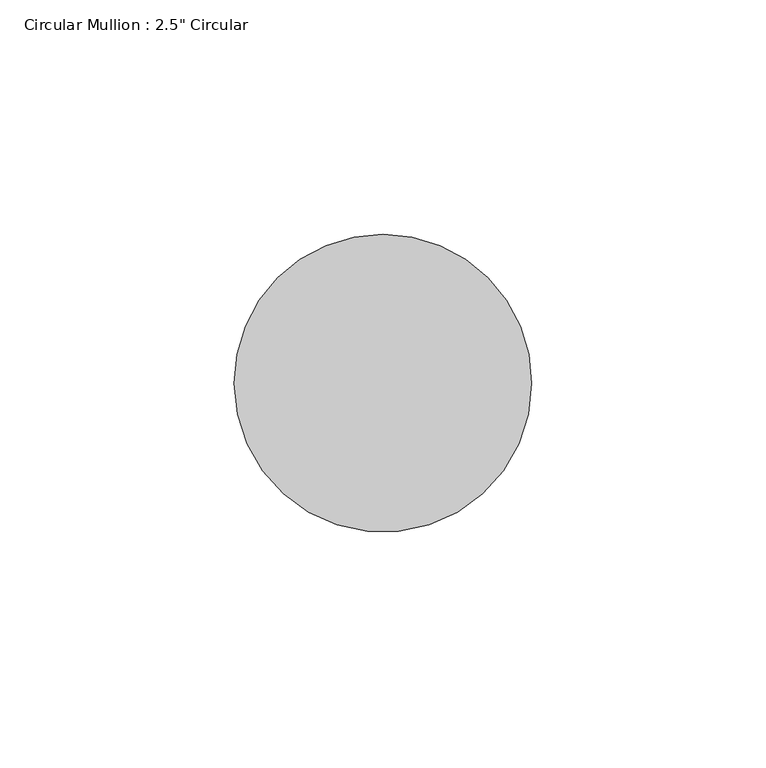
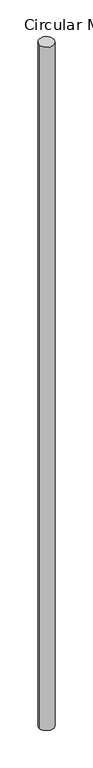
"""IFC4 building model written with IfcOpenShell, lengths in millimetres: member geometry."""

from ifc_helpers import new_model, si_unit, frame, origin, place, context, project, spatial, ellipse_curve, source, transform, mapped, element, save
from ifc_brep_helpers import plane_surface, cylinder_surface, advanced_brep


def member_fa245f38(model_context):
    return source(origin(), model_context, "Body", "AdvancedBrep", [
        advanced_brep(
        [(-63.5, 0.0, -1.1153241), (0.0, 0.0, 0.0), (0.0, 0.0, -3069.7474284), (-63.5, 0.0, -3068.6499871)],
        [
            (0, 1, ellipse_curve(frame((-31.75, 0.0, -0.557662), z_axis=(0.017532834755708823, 0.05706294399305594, -0.9982166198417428), x_axis=(0.29317955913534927, 0.9541918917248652, 0.05969572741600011)), 31.8067235, 31.75)),
            (1, 2),
            (2, 3, ellipse_curve(frame((-31.75, 0.0, -3069.1987078), z_axis=(0.017252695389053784, 0.05615119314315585, 0.9982732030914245), x_axis=(-0.29319617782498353, -0.9542459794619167, 0.058741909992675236)), 31.8049206, 31.75)),
            (3, 0),
            (1, 0, ellipse_curve(frame((-31.75, 0.0, -0.557662), z_axis=(0.017532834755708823, 0.05706294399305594, -0.9982166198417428), x_axis=(0.29317955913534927, 0.9541918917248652, 0.05969572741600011)), 31.8067235, 31.75)),
            (3, 2, ellipse_curve(frame((-31.75, 0.0, -3069.1987078), z_axis=(0.017252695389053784, 0.05615119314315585, 0.9982732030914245), x_axis=(-0.29319617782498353, -0.9542459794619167, 0.058741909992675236)), 31.8049206, 31.75)),
        ],
        [
            cylinder_surface(frame((-31.75, 0.0, 0.0), z_axis=(0.0, 0.0, 1.0), x_axis=(1.0, 0.0, 0.0)), 31.75),
            plane_surface(frame((291.3572894, -89.5207792, 0.0), z_axis=(-0.017532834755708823, -0.05706294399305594, 0.9982166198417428), x_axis=(-0.29317955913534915, -0.9541918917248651, -0.059695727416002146))),
            plane_surface(frame((291.3572894, -89.5207792, -3069.7474284), z_axis=(-0.017252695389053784, -0.05615119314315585, -0.9982732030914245), x_axis=(-0.29319617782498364, -0.9542459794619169, 0.058741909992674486))),
        ],
        [
            (0, [[1, 2, 3, 4]]),
            (0, [[5, -4, 6, -2]]),
            (1, [[-1, -5]]),
            (2, [[-6, -3]]),
        ],
    ),
    ])


if __name__ == "__main__":
    model = new_model("IFC4")
    model_context = context("Model", 3, world=origin())
    ifc_project = project(units=[si_unit("LENGTHUNIT", "METRE", prefix="MILLI")], contexts=[model_context])
    site = spatial("IfcSite", under=ifc_project)
    building = spatial("IfcBuilding", under=site)
    placement = place(None, origin())
    member_shape = member_fa245f38(model_context)
    element("IfcMember", 1, ObjectType="Circular Mullion : 2.5\" Circular", at=placement, inside=building, context=model_context, shape_type="MappedRepresentation", body=[
        mapped(member_shape, transform((0.0, 0.0, 0.0), x_axis=(1.0, 0.0, 0.0), y_axis=(0.0, 1.0, 0.0), z_axis=(0.0, 0.0, 1.0))),
    ])
    save(model, "model.ifc")
